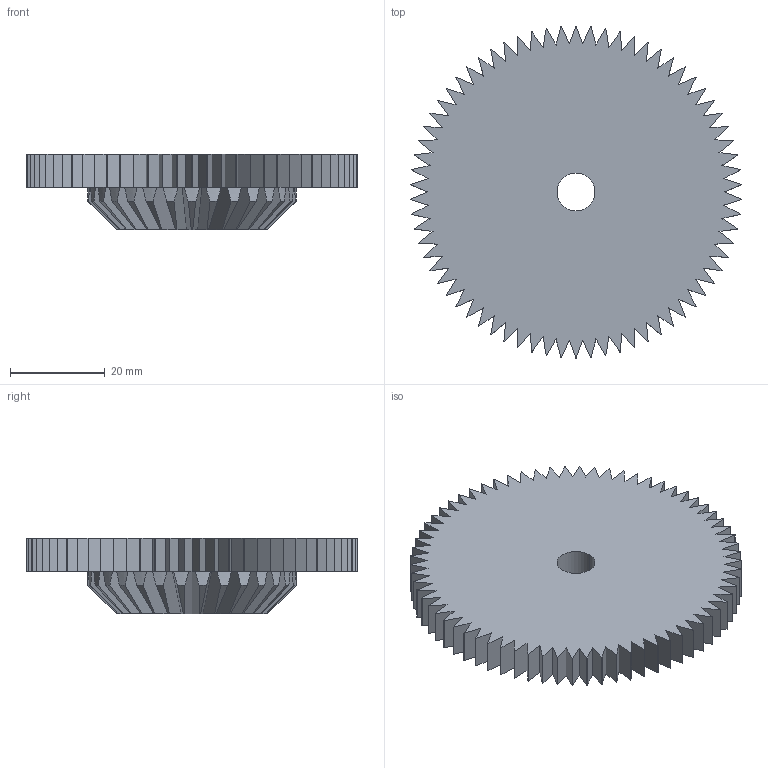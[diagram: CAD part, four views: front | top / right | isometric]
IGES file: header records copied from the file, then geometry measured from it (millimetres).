
Start section:  PTC IGES file: biggear.igs
Global section: file name: biggear.igs; native system: Creo Parametric by Parametric Technology Corporation; preprocessor: 2012130; author: GOC; organization: Unknown; date: 20141104.223950; units: millimetre
Bounding box: 69.93 x 70 x 16 mm (x, y, z)
Volume: 32939.7 mm3; surface area: 13439.5 mm2
Topology: 1 solids, 1 shells, 335 faces, 996 edges, 664 vertices
Faces by surface type: bspline 203, revolution 132
